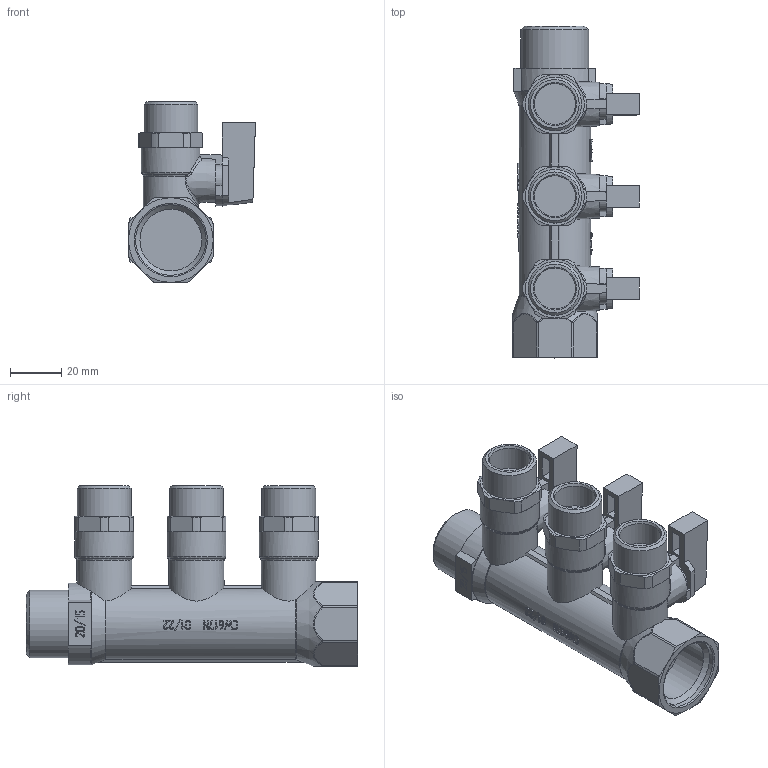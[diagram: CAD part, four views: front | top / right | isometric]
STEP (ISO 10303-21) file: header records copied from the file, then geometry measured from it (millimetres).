
FILE_DESCRIPTION(('STEP AP203'), '1');
FILE_NAME('覆.622621.010.000 捘 - VTc.580.N.0503', '2024-07-25T11:42:06', ('Boss'), (''), 'C3D Converter', 'C3D Toolkit', '');
FILE_SCHEMA(('CONFIG_CONTROL_DESIGN'));
Length unit declared in the file: millimetre
Products named in the file (1): ВР.622621.010.000 СБ
Bounding box: 49.5 x 129.5 x 70.5 mm (x, y, z)
Volume: 126414.7 mm3; surface area: 36342.3 mm2
Topology: 4 solids, 4 shells, 984 faces, 2633 edges, 1710 vertices
Faces by surface type: plane 390, extrusion 338, cylinder 118, cone 73, bspline 39, torus 26
Full cylindrical faces by diameter (mm): 4 x3, 4.5 x3, 6.4 x3, 8 x3, 10 x3, 16 x3, 20.955 x3, 21 x1, 21.5 x3, 23 x3, 24.118 x1, 26.441 x1, 27.5 x1
Entity records: 46476 total; most frequent: CARTESIAN_POINT 24354, ORIENTED_EDGE 5148, DIRECTION 3328, EDGE_CURVE 2574, VERTEX_POINT 1710, VECTOR 1420, B_SPLINE_CURVE_WITH_KNOTS 1347, EDGE_LOOP 1102
